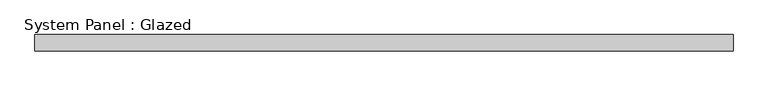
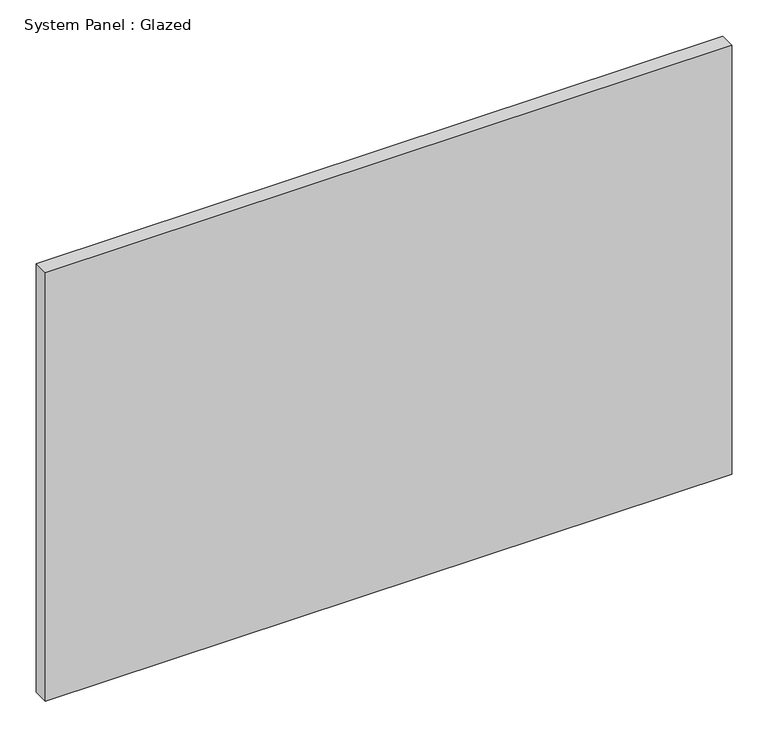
"""IFC4 building model written with IfcOpenShell, lengths in millimetres: plate geometry, System Panel : Glazed."""

import ifcopenshell
import ifcopenshell.guid

model = None  # the IFC model being written
_history = None  # IfcOwnerHistory: only IFC2X3 demands one
_inside = {}  # id of a spatial element -> (the spatial element, [elements in it])
_under = {}  # id of a project, library or spatial element -> (it, [spatial elements below it])
_declared = {}  # id of a project -> (the project, [libraries it declares])
_typed = {}  # id of a type object -> (the type object, [elements of that type])
_made_of = {}  # id of a material, layer set ... -> (it, [elements and type objects made of it])


def new_model(schema):
    """Start an empty IFC model of exactly this schema.

    Asked for "IFC4X3", IfcOpenShell would pick the latest addendum, in which some entities
    have other attributes; the version numbers below select the first issue.
    IFC2X3 requires an IfcOwnerHistory on every rooted entity: one is made here for all.
    """
    global model, _history
    if schema == "IFC4X3":
        model = ifcopenshell.file(schema_version=(4, 3, 0, 0))
    else:
        model = ifcopenshell.file(schema=schema)
    _inside.clear()
    _under.clear()
    _declared.clear()
    _typed.clear()
    _made_of.clear()
    _history = None
    if model.schema == "IFC2X3":
        org = make("IfcOrganization", Name="unknown")
        user = make(
            "IfcPersonAndOrganization",
            ThePerson=make("IfcPerson", FamilyName="unknown"),
            TheOrganization=org,
        )
        app = make(
            "IfcApplication",
            ApplicationDeveloper=org,
            Version="unknown",
            ApplicationFullName="unknown",
            ApplicationIdentifier="unknown",
        )
        _history = make(
            "IfcOwnerHistory",
            OwningUser=user,
            OwningApplication=app,
            ChangeAction="ADDED",
            CreationDate=0,
        )
    return model


def make(cls, **values):
    """One entity of the class cls with the attributes given. An attribute that is None is left unset."""
    return model.create_entity(
        cls, **{name: value for name, value in values.items() if value is not None}
    )


def rooted(cls, **values):
    """An entity with a GlobalId (a new one), such as an element, a storey or a relation."""
    return make(cls, GlobalId=ifcopenshell.guid.new(), OwnerHistory=_history, **values)


def si_unit(unit_type, name, prefix=None):
    """IfcSIUnit, for example si_unit("LENGTHUNIT", "METRE", prefix="MILLI")."""
    return make("IfcSIUnit", UnitType=unit_type, Prefix=prefix, Name=name)


def assignment(units):
    """IfcUnitAssignment: the units of a project."""
    return None if units is None else make("IfcUnitAssignment", Units=units)


def point(xyz):
    """IfcCartesianPoint."""
    return None if xyz is None else make("IfcCartesianPoint", Coordinates=xyz)


def direction(xyz):
    """IfcDirection."""
    return None if xyz is None else make("IfcDirection", DirectionRatios=xyz)


def frame(location, z_axis=None, x_axis=None):
    """IfcAxis2Placement3D, a coordinate frame: its origin and axes. An axis left out is left unset."""
    return make(
        "IfcAxis2Placement3D",
        Location=point(location),
        Axis=direction(z_axis),
        RefDirection=direction(x_axis),
    )


def origin():
    """The frame at (0, 0, 0) with its axes left unset."""
    return frame((0.0, 0.0, 0.0))


def origin_with_axes():
    """The frame at (0, 0, 0) with the z axis (0, 0, 1) and the x axis (1, 0, 0) written out."""
    return frame((0.0, 0.0, 0.0), z_axis=(0.0, 0.0, 1.0), x_axis=(1.0, 0.0, 0.0))


def place(relative_to, where):
    """IfcLocalPlacement: puts the frame where relative to a parent placement (None: the world)."""
    return make(
        "IfcLocalPlacement", PlacementRelTo=relative_to, RelativePlacement=where
    )


def context(
    kind, dimensions, precision=None, world=None, true_north=None, identifier=None
):
    """IfcGeometricRepresentationContext, for example the 3D "Model" context."""
    return make(
        "IfcGeometricRepresentationContext",
        ContextIdentifier=identifier,
        ContextType=kind,
        CoordinateSpaceDimension=dimensions,
        Precision=precision,
        WorldCoordinateSystem=world,
        TrueNorth=true_north,
    )


def project(units=None, contexts=None):
    """IfcProject with its units and contexts."""
    return rooted(
        "IfcProject",
        Name="project",
        RepresentationContexts=contexts,
        UnitsInContext=assignment(units),
    )


def spatial(cls, under=None, at=None, **own):
    """A site, building, storey or space (cls), placed at a placement, below another one or the project."""
    s = rooted(cls, ObjectPlacement=at, **own)
    if under is not None:
        _under.setdefault(under.id(), (under, []))[1].append(s)
    return s


def polyline(points):
    """IfcPolyline through the points."""
    return make("IfcPolyline", Points=[point(p) for p in points])


def outline(outer, holes=None, kind="AREA"):
    """IfcArbitraryClosedProfileDef: a profile drawn as a closed curve; with holes, ...WithVoids."""
    if holes is None:
        return make("IfcArbitraryClosedProfileDef", ProfileType=kind, OuterCurve=outer)
    return make(
        "IfcArbitraryProfileDefWithVoids",
        ProfileType=kind,
        OuterCurve=outer,
        InnerCurves=holes,
    )


def extrude(swept, where, along, depth):
    """IfcExtrudedAreaSolid: the profile swept, set in the frame where, extruded along a direction by depth."""
    return make(
        "IfcExtrudedAreaSolid",
        SweptArea=swept,
        Position=where,
        ExtrudedDirection=direction(along),
        Depth=depth,
    )


def shape(context_of_items, identifier, shape_type, items):
    """IfcShapeRepresentation: the items that make up one representation, for example the "Body"."""
    return make(
        "IfcShapeRepresentation",
        ContextOfItems=context_of_items,
        RepresentationIdentifier=identifier,
        RepresentationType=shape_type,
        Items=items,
    )


def source(mapping_origin, context_of_items, identifier, shape_type, items):
    """IfcRepresentationMap: a shape defined once, which mapped items show again and again."""
    return make(
        "IfcRepresentationMap",
        MappingOrigin=mapping_origin,
        MappedRepresentation=shape(context_of_items, identifier, shape_type, items),
    )


def transform(
    local_origin,
    x_axis=None,
    y_axis=None,
    z_axis=None,
    scale=None,
    scale2=None,
    scale3=None,
    uniform=True,
):
    """IfcCartesianTransformationOperator3D, or its non-uniform kind. x_axis, y_axis, z_axis: its Axis1, 2, 3."""
    if uniform:
        return make(
            "IfcCartesianTransformationOperator3D",
            Axis1=direction(x_axis),
            Axis2=direction(y_axis),
            LocalOrigin=point(local_origin),
            Scale=scale,
            Axis3=direction(z_axis),
        )
    return make(
        "IfcCartesianTransformationOperator3DnonUniform",
        Axis1=direction(x_axis),
        Axis2=direction(y_axis),
        LocalOrigin=point(local_origin),
        Scale=scale,
        Axis3=direction(z_axis),
        Scale2=scale2,
        Scale3=scale3,
    )


def mapped(mapping_source, mapping_target):
    """IfcMappedItem: shows the shape of a source again, moved by a transform."""
    return make(
        "IfcMappedItem", MappingSource=mapping_source, MappingTarget=mapping_target
    )


def made_of(thing, what):
    """Note that an element or type object is made of a material, layer set ...; save() writes the relation."""
    if what is not None:
        _made_of.setdefault(what.id(), (what, []))[1].append(thing)
    return thing


def element(
    cls,
    number,
    at=None,
    inside=None,
    cuts=None,
    type_object=None,
    material=None,
    context=None,
    identifier="Body",
    shape_type=None,
    held_by="IfcProductDefinitionShape",
    body=None,
    shapes=None,
    **own,
):
    """One element of the class cls, such as IfcWall. Its Tag is "e" and its number.

    at: its placement. inside: the storey or other place that contains it. cuts: it is an
    opening in that element (IfcRelVoidsElement). A single representation is given by context,
    identifier, shape_type and body (its items); several are given by shapes. held_by: the class
    of the entity that holds the representations. save() writes the other relations.
    """
    e = rooted(cls, Tag="e%d" % number, ObjectPlacement=at, **own)
    if body is not None:
        shapes = [shape(context, identifier, shape_type, body)]
    if shapes is not None:
        e.Representation = make(held_by, Representations=shapes)
    if inside is not None:
        _inside.setdefault(inside.id(), (inside, []))[1].append(e)
    if cuts is not None:
        rooted(
            "IfcRelVoidsElement", RelatingBuildingElement=cuts, RelatedOpeningElement=e
        )
    if type_object is not None:
        _typed.setdefault(type_object.id(), (type_object, []))[1].append(e)
    return made_of(e, material)


def aggregate(whole, parts):
    """IfcRelAggregates: a whole, such as a stair, and the parts it consists of."""
    return rooted("IfcRelAggregates", RelatingObject=whole, RelatedObjects=parts)


def save(model, path):
    """Write the relations noted so far, then the file.

    IfcRelAggregates (storeys below a building ...), IfcRelContainedInSpatialStructure (elements
    in a storey), IfcRelDefinesByType, IfcRelAssociatesMaterial and IfcRelDeclares: one each for
    every whole, place, type object, material and project.
    """
    for whole, parts in _under.values():
        aggregate(whole, parts)
    for where, things in _inside.values():
        rooted(
            "IfcRelContainedInSpatialStructure",
            RelatedElements=things,
            RelatingStructure=where,
        )
    for kind, things in _typed.values():
        rooted("IfcRelDefinesByType", RelatedObjects=things, RelatingType=kind)
    for what, things in _made_of.values():
        rooted("IfcRelAssociatesMaterial", RelatedObjects=things, RelatingMaterial=what)
    for by, libraries in _declared.values():
        rooted("IfcRelDeclares", RelatingContext=by, RelatedDefinitions=libraries)
    model.write(path)


def system_panel_glazed_04ba90b8(model_context):
    return source(origin(), model_context, "Body", "SweptSolid", [
        extrude(outline(polyline([(546.4175, -44.45), (-546.4175, -44.45), (-546.4175, -19.05), (546.4175, -19.05), (546.4175, -44.45)])), origin_with_axes(), (0.0, 0.0, 1.0), 721.8891834),
    ])


if __name__ == "__main__":
    model = new_model("IFC4")
    model_context = context("Model", 3, world=origin())
    ifc_project = project(units=[si_unit("LENGTHUNIT", "METRE", prefix="MILLI")], contexts=[model_context])
    site = spatial("IfcSite", under=ifc_project)
    building = spatial("IfcBuilding", under=site)
    placement = place(None, origin())
    system_panel_glazed_shape = system_panel_glazed_04ba90b8(model_context)
    element("IfcPlate", 1, ObjectType="System Panel : Glazed", at=placement, inside=building, context=model_context, shape_type="MappedRepresentation", body=[
        mapped(system_panel_glazed_shape, transform((0.0, 0.0, 0.0), x_axis=(1.0, 0.0, 0.0), y_axis=(0.0, 1.0, 0.0), z_axis=(0.0, 0.0, 1.0))),
    ])
    save(model, "model.ifc")
